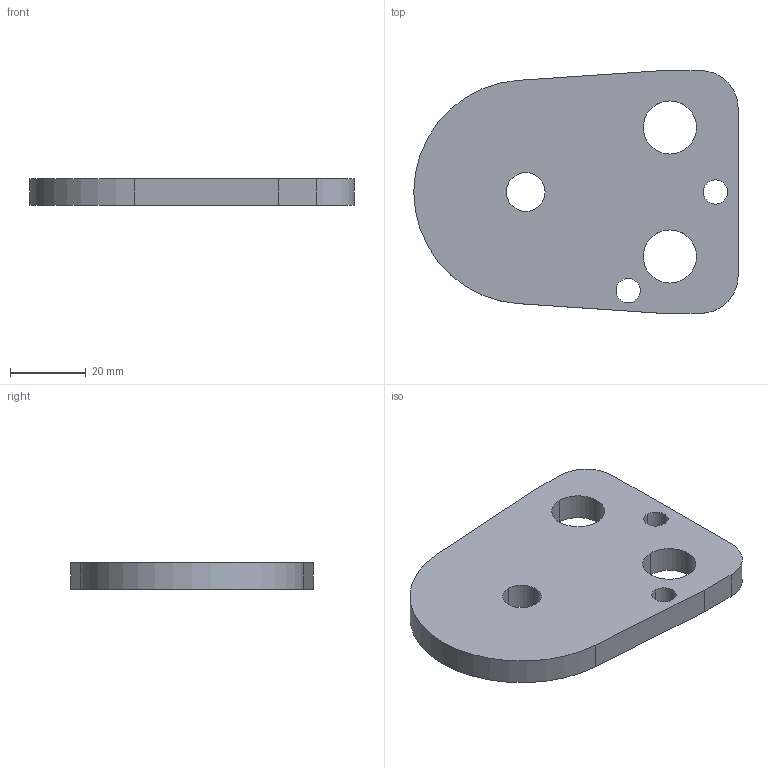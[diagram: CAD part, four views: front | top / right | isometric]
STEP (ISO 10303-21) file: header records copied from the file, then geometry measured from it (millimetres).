
FILE_DESCRIPTION(/* description */ (''),/* implementation_level */ '2;1');
FILE_NAME(/* name */ '3d_bpc45-7_03399_r00.stp',/* time_stamp */ '2011-01-10T14:17:09+09:00',/* author */ ('MISUMI'),/* organization */ (''),/* preprocessor_version */ 'ST-DEVELOPER v11',/* originating_system */ 'UGS - NX 5.0',/* authorisation */ '');
FILE_SCHEMA (('CONFIG_CONTROL_DESIGN'));
Length unit declared in the file: millimetre
Products named in the file (1): 3d_bpc45-7_03399_r00
Bounding box: 85.5 x 64 x 7 mm (x, y, z)
Volume: 30566.5 mm3; surface area: 11676.7 mm2
Topology: 1 solids, 1 shells, 20 faces, 54 edges, 36 vertices
Faces by surface type: cylinder 13, plane 7
Entity records: 750 total; most frequent: DIRECTION 122, CARTESIAN_POINT 111, ORIENTED_EDGE 108, EDGE_CURVE 54, AXIS2_PLACEMENT_3D 47, VERTEX_POINT 36, EDGE_LOOP 30, LINE 28
